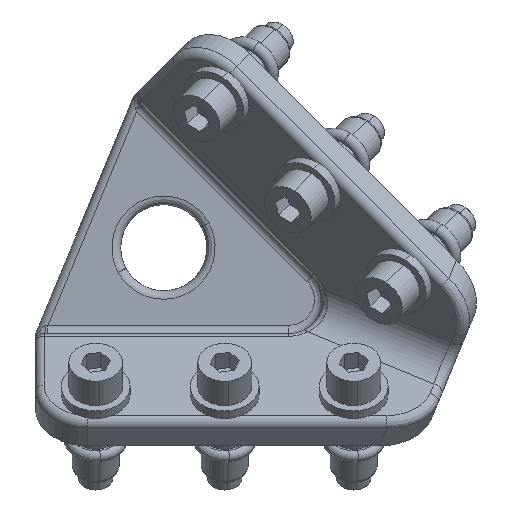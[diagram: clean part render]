
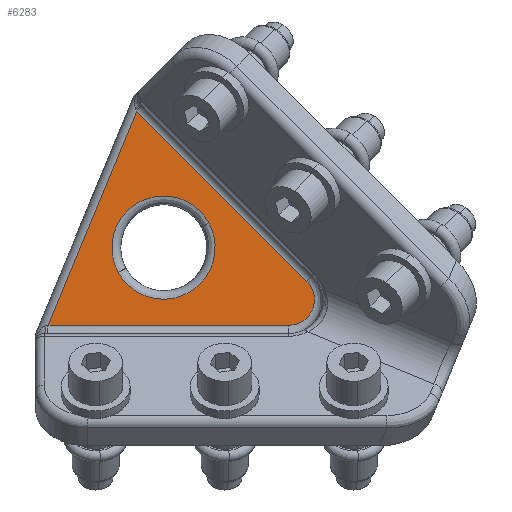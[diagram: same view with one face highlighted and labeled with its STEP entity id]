
A CAD part, front view. The second image highlights one B-rep face of the part: STEP entity #6283.
In plain terms, the highlighted planar face has unit normal (-0.032, -0.999, 0.013).
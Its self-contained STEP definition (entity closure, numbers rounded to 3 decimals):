
#1123=CARTESIAN_POINT('Vertex',(-191.093,-6.067,49.973)) ;
#1126=CARTESIAN_POINT('Line Origine',(-180.777,-6.067,74.88)) ;
#1130=CARTESIAN_POINT('Vertex',(-170.46,-6.067,99.787)) ;
#2684=CARTESIAN_POINT('Line Origine',(-148.505,-7.069,77.832)) ;
#2688=CARTESIAN_POINT('Vertex',(-130.889,-7.873,60.216)) ;
#2828=CARTESIAN_POINT('Control Point',(-135.131,-7.873,49.973)) ;
#2829=CARTESIAN_POINT('Control Point',(-133.994,-7.91,49.973)) ;
#2830=CARTESIAN_POINT('Control Point',(-132.856,-7.943,50.243)) ;
#2831=CARTESIAN_POINT('Control Point',(-131.803,-7.969,50.783)) ;
#2832=CARTESIAN_POINT('Control Point',(-129.61,-8.015,52.69)) ;
#2833=CARTESIAN_POINT('Control Point',(-128.769,-8.003,55.567)) ;
#2834=CARTESIAN_POINT('Control Point',(-128.919,-7.974,57.407)) ;
#2835=CARTESIAN_POINT('Control Point',(-129.695,-7.927,59.022)) ;
#2836=CARTESIAN_POINT('Control Point',(-130.889,-7.873,60.216)) ;
#2837=CARTESIAN_POINT('Vertex',(-135.131,-7.873,49.973)) ;
#2863=CARTESIAN_POINT('Line Origine',(-159.936,-7.073,49.973)) ;
#4016=CARTESIAN_POINT('Vertex',(-153.7,-6.956,73.78)) ;
#4020=CARTESIAN_POINT('Control Point',(-153.7,-6.956,73.78)) ;
#4021=CARTESIAN_POINT('Control Point',(-154.934,-6.886,76.038)) ;
#4022=CARTESIAN_POINT('Control Point',(-156.772,-6.801,77.965)) ;
#4023=CARTESIAN_POINT('Control Point',(-159.098,-6.707,79.343)) ;
#4024=CARTESIAN_POINT('Control Point',(-162.957,-6.569,80.373)) ;
#4025=CARTESIAN_POINT('Control Point',(-166.816,-6.451,79.852)) ;
#4026=CARTESIAN_POINT('Control Point',(-168.071,-6.416,79.506)) ;
#4027=CARTESIAN_POINT('Control Point',(-170.458,-6.352,78.486)) ;
#4028=CARTESIAN_POINT('Control Point',(-172.492,-6.308,76.874)) ;
#4029=CARTESIAN_POINT('Control Point',(-173.394,-6.291,75.935)) ;
#4030=CARTESIAN_POINT('Control Point',(-175.586,-6.261,72.936)) ;
#4031=CARTESIAN_POINT('Control Point',(-176.537,-6.279,69.263)) ;
#4032=CARTESIAN_POINT('Control Point',(-176.534,-6.313,66.762)) ;
#4033=CARTESIAN_POINT('Control Point',(-175.91,-6.365,64.375)) ;
#4034=CARTESIAN_POINT('Control Point',(-174.762,-6.43,62.274)) ;
#4035=CARTESIAN_POINT('Vertex',(-174.762,-6.43,62.274)) ;
#4185=CARTESIAN_POINT('Control Point',(-174.762,-6.43,62.274)) ;
#4186=CARTESIAN_POINT('Control Point',(-174.029,-6.471,60.932)) ;
#4187=CARTESIAN_POINT('Control Point',(-173.083,-6.518,59.708)) ;
#4188=CARTESIAN_POINT('Control Point',(-171.948,-6.569,58.645)) ;
#4189=CARTESIAN_POINT('Control Point',(-168.504,-6.711,56.33)) ;
#4190=CARTESIAN_POINT('Control Point',(-164.324,-6.856,55.601)) ;
#4191=CARTESIAN_POINT('Control Point',(-161.634,-6.939,55.875)) ;
#4192=CARTESIAN_POINT('Control Point',(-155.846,-7.095,58.158)) ;
#4193=CARTESIAN_POINT('Control Point',(-152.292,-7.139,63.467)) ;
#4194=CARTESIAN_POINT('Control Point',(-151.48,-7.116,67.151)) ;
#4195=CARTESIAN_POINT('Control Point',(-152.051,-7.049,70.761)) ;
#4196=CARTESIAN_POINT('Control Point',(-153.7,-6.956,73.78)) ;
#6268=CARTESIAN_POINT('Axis2P3D Location',(-171.12,-6.,103.238)) ;
#1127=DIRECTION('Vector Direction',(-0.383,0.,-0.924)) ;
#2685=DIRECTION('Vector Direction',(0.707,-0.032,-0.707)) ;
#2864=DIRECTION('Vector Direction',(-0.999,0.032,0.)) ;
#6269=DIRECTION('Axis2P3D Direction',(-0.032,-0.999,0.013)) ;
#6270=DIRECTION('Axis2P3D XDirection',(-0.383,0.,-0.924)) ;
#6271=AXIS2_PLACEMENT_3D('Plane Axis2P3D',#6268,#6269,#6270) ;
#6274=ORIENTED_EDGE('',*,*,#1132,.F.) ;
#6275=ORIENTED_EDGE('',*,*,#2867,.T.) ;
#6276=ORIENTED_EDGE('',*,*,#2839,.T.) ;
#6277=ORIENTED_EDGE('',*,*,#2690,.T.) ;
#6280=ORIENTED_EDGE('',*,*,#4037,.F.) ;
#6281=ORIENTED_EDGE('',*,*,#4197,.F.) ;
#6282=FACE_BOUND('',#6279,.T.) ;
#1128=VECTOR('Line Direction',#1127,1.) ;
#2686=VECTOR('Line Direction',#2685,1.) ;
#2865=VECTOR('Line Direction',#2864,1.) ;
#6283=ADVANCED_FACE('PartBody',(#6278,#6282),#6272,.T.) ;
#2827=B_SPLINE_CURVE_WITH_KNOTS('',5,(#2828,#2829,#2830,#2831,#2832,#2833,#2834,#2835,#2836),.UNSPECIFIED.,.F.,.U.,(6,3,6),(19.641,26.716,37.218),.UNSPECIFIED.) ;
#4019=B_SPLINE_CURVE_WITH_KNOTS('',5,(#4020,#4021,#4022,#4023,#4024,#4025,#4026,#4027,#4028,#4029,#4030,#4031,#4032,#4033,#4034),.UNSPECIFIED.,.F.,.U.,(6,3,3,3,6),(0.,11.739,17.609,23.475,34.399),.UNSPECIFIED.) ;
#4184=B_SPLINE_CURVE_WITH_KNOTS('',5,(#4185,#4186,#4187,#4188,#4189,#4190,#4191,#4192,#4193,#4194,#4195,#4196),.UNSPECIFIED.,.F.,.U.,(6,3,3,6),(49.092,56.165,68.066,83.983),.UNSPECIFIED.) ;
#1132=EDGE_CURVE('',#1124,#1131,#1129,.F.) ;
#2690=EDGE_CURVE('',#2689,#1131,#2687,.F.) ;
#2839=EDGE_CURVE('',#2838,#2689,#2827,.T.) ;
#2867=EDGE_CURVE('',#1124,#2838,#2866,.F.) ;
#4037=EDGE_CURVE('',#4017,#4036,#4019,.T.) ;
#4197=EDGE_CURVE('',#4036,#4017,#4184,.T.) ;
#6273=EDGE_LOOP('',(#6274,#6275,#6276,#6277)) ;
#6279=EDGE_LOOP('',(#6280,#6281)) ;
#6278=FACE_OUTER_BOUND('',#6273,.T.) ;
#1129=LINE('Line',#1126,#1128) ;
#2687=LINE('Line',#2684,#2686) ;
#2866=LINE('Line',#2863,#2865) ;
#6272=PLANE('',#6271) ;
#1124=VERTEX_POINT('',#1123) ;
#1131=VERTEX_POINT('',#1130) ;
#2689=VERTEX_POINT('',#2688) ;
#2838=VERTEX_POINT('',#2837) ;
#4017=VERTEX_POINT('',#4016) ;
#4036=VERTEX_POINT('',#4035) ;
